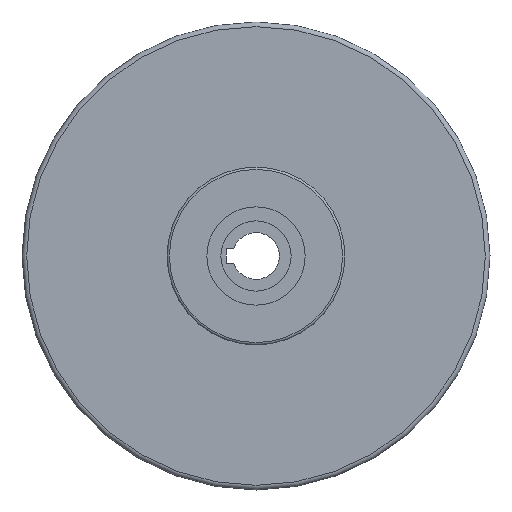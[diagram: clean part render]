
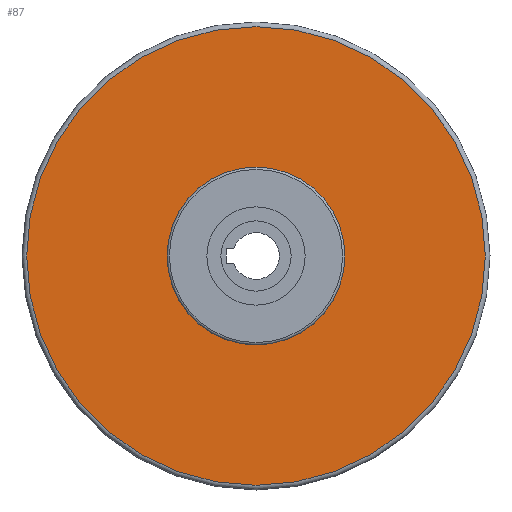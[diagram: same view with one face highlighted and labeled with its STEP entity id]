
A CAD part, left-side view. The second image highlights one B-rep face of the part: STEP entity #87.
In plain terms, the highlighted planar face has unit normal (-1, 0, 0).
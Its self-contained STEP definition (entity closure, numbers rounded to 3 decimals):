
#87 = ADVANCED_FACE( '', ( #141, #142 ), #143, .T. );
#141 = FACE_BOUND( '', #223, .T. );
#142 = FACE_OUTER_BOUND( '', #224, .T. );
#143 = PLANE( '', #225 );
#223 = EDGE_LOOP( '', ( #338 ) );
#224 = EDGE_LOOP( '', ( #339 ) );
#225 = AXIS2_PLACEMENT_3D( '', #340, #341, #342 );
#338 = ORIENTED_EDGE( '', *, *, #447, .T. );
#339 = ORIENTED_EDGE( '', *, *, #446, .F. );
#340 = CARTESIAN_POINT( '', ( 32., 98.001, 0. ) );
#341 = DIRECTION( '', ( -1., 0., 0. ) );
#342 = DIRECTION( '', ( 0., 0., 1. ) );
#446 = EDGE_CURVE( '', #501, #501, #502, .T. );
#447 = EDGE_CURVE( '', #503, #503, #504, .T. );
#501 = VERTEX_POINT( '', #660 );
#502 = CIRCLE( '', #661, 98.001 );
#503 = VERTEX_POINT( '', #662 );
#504 = CIRCLE( '', #663, 38. );
#660 = CARTESIAN_POINT( '', ( 32., 0., -98.001 ) );
#661 = AXIS2_PLACEMENT_3D( '', #732, #733, #734 );
#662 = CARTESIAN_POINT( '', ( 32., 0., -38. ) );
#663 = AXIS2_PLACEMENT_3D( '', #735, #736, #737 );
#732 = CARTESIAN_POINT( '', ( 32., 0., 0. ) );
#733 = DIRECTION( '', ( 1., 0., 0. ) );
#734 = DIRECTION( '', ( 0., 0., -1. ) );
#735 = CARTESIAN_POINT( '', ( 32., 0., 0. ) );
#736 = DIRECTION( '', ( 1., 0., 0. ) );
#737 = DIRECTION( '', ( 0., 0., -1. ) );
